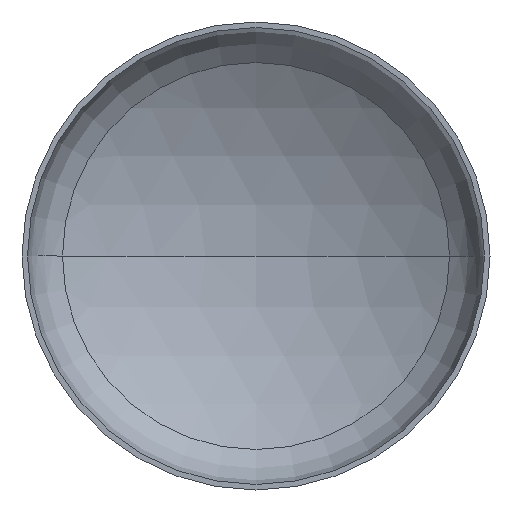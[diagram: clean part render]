
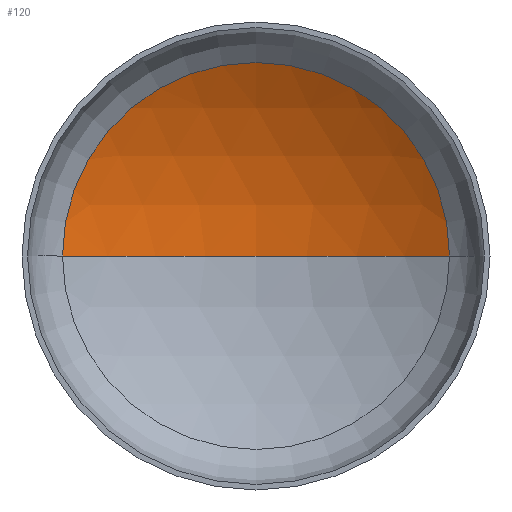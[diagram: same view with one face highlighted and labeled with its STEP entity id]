
A CAD part, front view. The second image highlights one B-rep face of the part: STEP entity #120.
In plain terms, the highlighted spherical face has radius 880 mm.
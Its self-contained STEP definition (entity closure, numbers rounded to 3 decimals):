
#11 = AXIS2_PLACEMENT_3D ( 'NONE', #142, #238, #402 ) ;
#16 = EDGE_LOOP ( 'NONE', ( #152, #88, #27 ) ) ;
#27 = ORIENTED_EDGE ( 'NONE', *, *, #303, .T. ) ;
#29 = VERTEX_POINT ( 'NONE', #247 ) ;
#47 = AXIS2_PLACEMENT_3D ( 'NONE', #170, #210, #378 ) ;
#55 = VERTEX_POINT ( 'NONE', #232 ) ;
#63 = AXIS2_PLACEMENT_3D ( 'NONE', #175, #133, #134 ) ;
#88 = ORIENTED_EDGE ( 'NONE', *, *, #311, .T. ) ;
#102 = VERTEX_POINT ( 'NONE', #236 ) ;
#120 = ADVANCED_FACE ( 'NONE', ( #390 ), #271, .F. ) ;
#123 = AXIS2_PLACEMENT_3D ( 'NONE', #334, #323, #320 ) ;
#133 = DIRECTION ( 'NONE',  ( 0., -1., 0. ) ) ;
#134 = DIRECTION ( 'NONE',  ( 1., 0., 0. ) ) ;
#142 = CARTESIAN_POINT ( 'NONE',  ( 0., -567.792, 0. ) ) ;
#152 = ORIENTED_EDGE ( 'NONE', *, *, #367, .F. ) ;
#165 = CIRCLE ( 'NONE', #47, 880. ) ;
#170 = CARTESIAN_POINT ( 'NONE',  ( 0., -567.792, 0. ) ) ;
#175 = CARTESIAN_POINT ( 'NONE',  ( 0., 185.528, 0. ) ) ;
#210 = DIRECTION ( 'NONE',  ( 0., 0., -1. ) ) ;
#232 = CARTESIAN_POINT ( 'NONE',  ( 454.873, 185.528, 0. ) ) ;
#236 = CARTESIAN_POINT ( 'NONE',  ( -454.873, 185.528, 0. ) ) ;
#238 = DIRECTION ( 'NONE',  ( 0., 0., 1. ) ) ;
#247 = CARTESIAN_POINT ( 'NONE',  ( 0., 312.208, 0. ) ) ;
#271 = SPHERICAL_SURFACE ( 'NONE', #123, 880. ) ;
#289 = CIRCLE ( 'NONE', #63, 454.873 ) ;
#303 = EDGE_CURVE ( 'NONE', #55, #102, #289, .T. ) ;
#311 = EDGE_CURVE ( 'NONE', #29, #55, #165, .T. ) ;
#320 = DIRECTION ( 'NONE',  ( -1., 0., 0. ) ) ;
#323 = DIRECTION ( 'NONE',  ( 0., 0., -1. ) ) ;
#334 = CARTESIAN_POINT ( 'NONE',  ( 0., -567.792, 0. ) ) ;
#367 = EDGE_CURVE ( 'NONE', #29, #102, #392, .T. ) ;
#378 = DIRECTION ( 'NONE',  ( -1., 0., 0. ) ) ;
#390 = FACE_OUTER_BOUND ( 'NONE', #16, .T. ) ;
#392 = CIRCLE ( 'NONE', #11, 880. ) ;
#402 = DIRECTION ( 'NONE',  ( 1., 0., 0. ) ) ;
